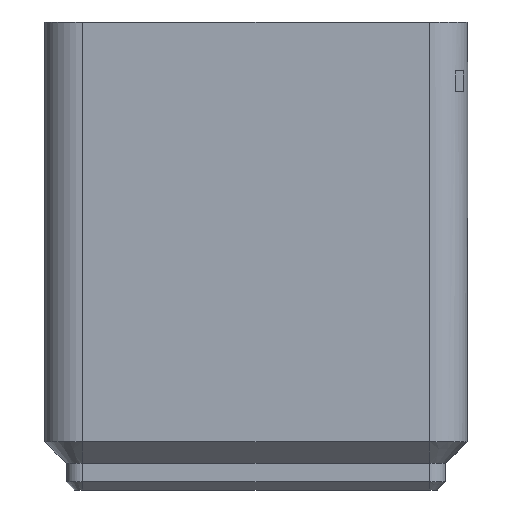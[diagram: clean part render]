
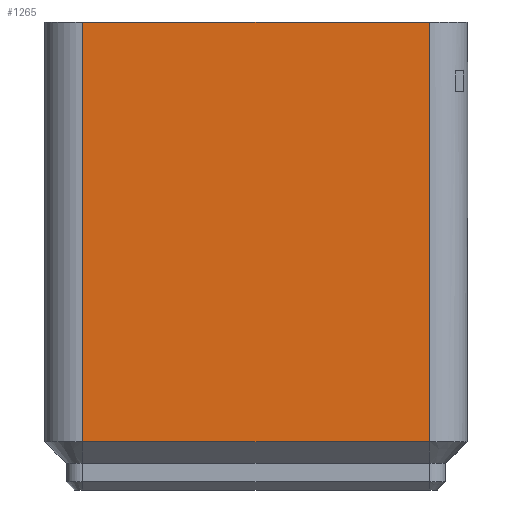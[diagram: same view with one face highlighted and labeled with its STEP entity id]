
A CAD part, left-side view. The second image highlights one B-rep face of the part: STEP entity #1265.
In plain terms, the highlighted planar face has unit normal (-1, 0, 0).
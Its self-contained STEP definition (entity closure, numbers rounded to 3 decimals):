
#417 = PLANE('',#418);
#418 = AXIS2_PLACEMENT_3D('',#419,#420,#421);
#419 = CARTESIAN_POINT('',(-20.75,0.,4.75));
#420 = DIRECTION('',(-0.707,0.,-0.707));
#421 = DIRECTION('',(0.,-1.,-0.));
#851 = VERTEX_POINT('',#852);
#852 = CARTESIAN_POINT('',(-20.75,-17.,4.75));
#870 = EDGE_CURVE('',#851,#871,#873,.T.);
#871 = VERTEX_POINT('',#872);
#872 = CARTESIAN_POINT('',(-20.75,17.,4.75));
#873 = SURFACE_CURVE('',#874,(#878,#885),.PCURVE_S1.);
#874 = LINE('',#875,#876);
#875 = CARTESIAN_POINT('',(-20.75,0.,4.75));
#876 = VECTOR('',#877,1.);
#877 = DIRECTION('',(0.,1.,0.));
#878 = PCURVE('',#417,#879);
#879 = DEFINITIONAL_REPRESENTATION('',(#880),#884);
#880 = LINE('',#881,#882);
#881 = CARTESIAN_POINT('',(0.,0.));
#882 = VECTOR('',#883,1.);
#883 = DIRECTION('',(-1.,0.));
#884 = ( GEOMETRIC_REPRESENTATION_CONTEXT(2) 
PARAMETRIC_REPRESENTATION_CONTEXT() REPRESENTATION_CONTEXT('2D SPACE',''
  ) );
#885 = PCURVE('',#886,#891);
#886 = PLANE('',#887);
#887 = AXIS2_PLACEMENT_3D('',#888,#889,#890);
#888 = CARTESIAN_POINT('',(-20.75,-17.,4.75));
#889 = DIRECTION('',(-1.,0.,0.));
#890 = DIRECTION('',(0.,1.,0.));
#891 = DEFINITIONAL_REPRESENTATION('',(#892),#896);
#892 = LINE('',#893,#894);
#893 = CARTESIAN_POINT('',(17.,0.));
#894 = VECTOR('',#895,1.);
#895 = DIRECTION('',(1.,0.));
#896 = ( GEOMETRIC_REPRESENTATION_CONTEXT(2) 
PARAMETRIC_REPRESENTATION_CONTEXT() REPRESENTATION_CONTEXT('2D SPACE',''
  ) );
#1203 = CYLINDRICAL_SURFACE('',#1204,3.75);
#1204 = AXIS2_PLACEMENT_3D('',#1205,#1206,#1207);
#1205 = CARTESIAN_POINT('',(-17.,-17.,4.75));
#1206 = DIRECTION('',(0.,0.,-1.));
#1207 = DIRECTION('',(-1.,0.,0.));
#1237 = CYLINDRICAL_SURFACE('',#1238,3.75);
#1238 = AXIS2_PLACEMENT_3D('',#1239,#1240,#1241);
#1239 = CARTESIAN_POINT('',(-17.,17.,4.75));
#1240 = DIRECTION('',(0.,0.,-1.));
#1241 = DIRECTION('',(-1.,0.,0.));
#1265 = ADVANCED_FACE('',(#1266),#886,.T.);
#1266 = FACE_BOUND('',#1267,.T.);
#1267 = EDGE_LOOP('',(#1268,#1291,#1319,#1340));
#1268 = ORIENTED_EDGE('',*,*,#1269,.T.);
#1269 = EDGE_CURVE('',#851,#1270,#1272,.T.);
#1270 = VERTEX_POINT('',#1271);
#1271 = CARTESIAN_POINT('',(-20.75,-17.,45.9));
#1272 = SURFACE_CURVE('',#1273,(#1277,#1284),.PCURVE_S1.);
#1273 = LINE('',#1274,#1275);
#1274 = CARTESIAN_POINT('',(-20.75,-17.,4.75));
#1275 = VECTOR('',#1276,1.);
#1276 = DIRECTION('',(0.,0.,1.));
#1277 = PCURVE('',#886,#1278);
#1278 = DEFINITIONAL_REPRESENTATION('',(#1279),#1283);
#1279 = LINE('',#1280,#1281);
#1280 = CARTESIAN_POINT('',(0.,0.));
#1281 = VECTOR('',#1282,1.);
#1282 = DIRECTION('',(0.,-1.));
#1283 = ( GEOMETRIC_REPRESENTATION_CONTEXT(2) 
PARAMETRIC_REPRESENTATION_CONTEXT() REPRESENTATION_CONTEXT('2D SPACE',''
  ) );
#1284 = PCURVE('',#1203,#1285);
#1285 = DEFINITIONAL_REPRESENTATION('',(#1286),#1290);
#1286 = LINE('',#1287,#1288);
#1287 = CARTESIAN_POINT('',(6.283,0.));
#1288 = VECTOR('',#1289,1.);
#1289 = DIRECTION('',(0.,-1.));
#1290 = ( GEOMETRIC_REPRESENTATION_CONTEXT(2) 
PARAMETRIC_REPRESENTATION_CONTEXT() REPRESENTATION_CONTEXT('2D SPACE',''
  ) );
#1291 = ORIENTED_EDGE('',*,*,#1292,.T.);
#1292 = EDGE_CURVE('',#1270,#1293,#1295,.T.);
#1293 = VERTEX_POINT('',#1294);
#1294 = CARTESIAN_POINT('',(-20.75,17.,45.9));
#1295 = SURFACE_CURVE('',#1296,(#1300,#1307),.PCURVE_S1.);
#1296 = LINE('',#1297,#1298);
#1297 = CARTESIAN_POINT('',(-20.75,0.,45.9));
#1298 = VECTOR('',#1299,1.);
#1299 = DIRECTION('',(0.,1.,0.));
#1300 = PCURVE('',#886,#1301);
#1301 = DEFINITIONAL_REPRESENTATION('',(#1302),#1306);
#1302 = LINE('',#1303,#1304);
#1303 = CARTESIAN_POINT('',(17.,-41.15));
#1304 = VECTOR('',#1305,1.);
#1305 = DIRECTION('',(1.,0.));
#1306 = ( GEOMETRIC_REPRESENTATION_CONTEXT(2) 
PARAMETRIC_REPRESENTATION_CONTEXT() REPRESENTATION_CONTEXT('2D SPACE',''
  ) );
#1307 = PCURVE('',#1308,#1313);
#1308 = PLANE('',#1309);
#1309 = AXIS2_PLACEMENT_3D('',#1310,#1311,#1312);
#1310 = CARTESIAN_POINT('',(0.,0.,45.9)
  );
#1311 = DIRECTION('',(0.,0.,1.));
#1312 = DIRECTION('',(1.,0.,-0.));
#1313 = DEFINITIONAL_REPRESENTATION('',(#1314),#1318);
#1314 = LINE('',#1315,#1316);
#1315 = CARTESIAN_POINT('',(-20.75,0.));
#1316 = VECTOR('',#1317,1.);
#1317 = DIRECTION('',(0.,1.));
#1318 = ( GEOMETRIC_REPRESENTATION_CONTEXT(2) 
PARAMETRIC_REPRESENTATION_CONTEXT() REPRESENTATION_CONTEXT('2D SPACE',''
  ) );
#1319 = ORIENTED_EDGE('',*,*,#1320,.F.);
#1320 = EDGE_CURVE('',#871,#1293,#1321,.T.);
#1321 = SURFACE_CURVE('',#1322,(#1326,#1333),.PCURVE_S1.);
#1322 = LINE('',#1323,#1324);
#1323 = CARTESIAN_POINT('',(-20.75,17.,4.75));
#1324 = VECTOR('',#1325,1.);
#1325 = DIRECTION('',(0.,0.,1.));
#1326 = PCURVE('',#886,#1327);
#1327 = DEFINITIONAL_REPRESENTATION('',(#1328),#1332);
#1328 = LINE('',#1329,#1330);
#1329 = CARTESIAN_POINT('',(34.,0.));
#1330 = VECTOR('',#1331,1.);
#1331 = DIRECTION('',(0.,-1.));
#1332 = ( GEOMETRIC_REPRESENTATION_CONTEXT(2) 
PARAMETRIC_REPRESENTATION_CONTEXT() REPRESENTATION_CONTEXT('2D SPACE',''
  ) );
#1333 = PCURVE('',#1237,#1334);
#1334 = DEFINITIONAL_REPRESENTATION('',(#1335),#1339);
#1335 = LINE('',#1336,#1337);
#1336 = CARTESIAN_POINT('',(0.,0.));
#1337 = VECTOR('',#1338,1.);
#1338 = DIRECTION('',(0.,-1.));
#1339 = ( GEOMETRIC_REPRESENTATION_CONTEXT(2) 
PARAMETRIC_REPRESENTATION_CONTEXT() REPRESENTATION_CONTEXT('2D SPACE',''
  ) );
#1340 = ORIENTED_EDGE('',*,*,#870,.F.);
